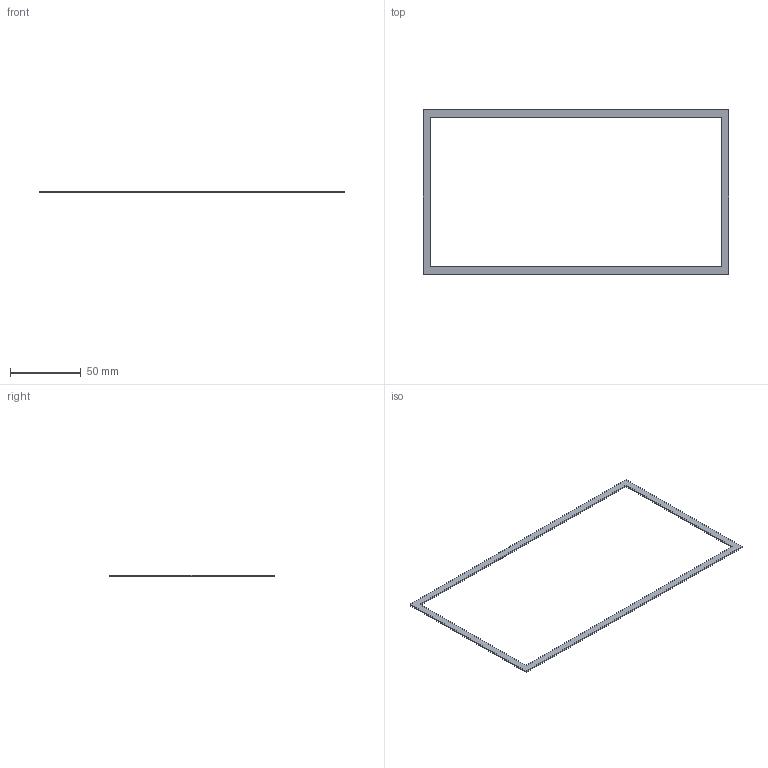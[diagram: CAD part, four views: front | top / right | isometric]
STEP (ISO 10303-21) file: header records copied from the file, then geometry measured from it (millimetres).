
FILE_DESCRIPTION(('Open CASCADE Model'),'2;1');
FILE_NAME('Open CASCADE Shape Model','2026-11-20T16:44:58',('Author'),( 'Open CASCADE'),'Open CASCADE STEP processor 7.9','Open CASCADE 7.9' ,'Unknown');
FILE_SCHEMA(('AUTOMOTIVE_DESIGN { 1 0 10303 214 1 1 1 1 }'));
Length unit declared in the file: millimetre
Products named in the file (1): Open CASCADE STEP translator 7.9 3
Bounding box: 216 x 116 x 1 mm (x, y, z)
Volume: 3220 mm3; surface area: 7728 mm2
Topology: 1 solids, 1 shells, 10 faces, 24 edges, 16 vertices
Faces by surface type: plane 10
Entity records: 598 total; most frequent: CARTESIAN_POINT 115, DIRECTION 78, LINE 56, VECTOR 56, ORIENTED_EDGE 48, PCURVE 48, DEFINITIONAL_REPRESENTATION 48, EDGE_CURVE 24
